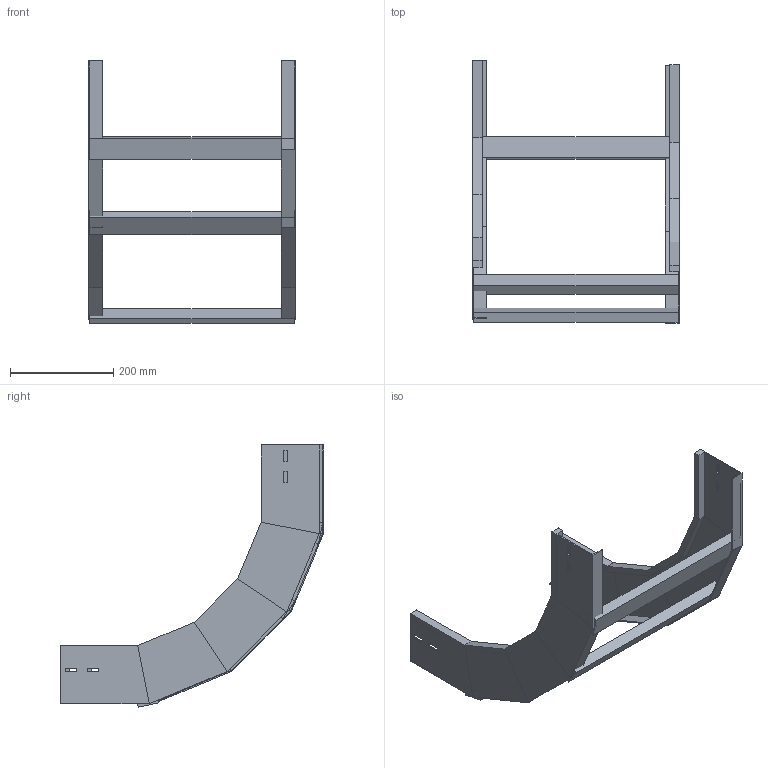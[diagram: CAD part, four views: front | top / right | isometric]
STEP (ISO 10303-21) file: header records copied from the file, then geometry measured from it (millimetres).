
FILE_DESCRIPTION (( 'STEP AP214' ), '1' );
FILE_NAME ('A2X30B3J400XX.step', '2025-04-02T09:13:19', ( '' ), ( '' ), 'SwSTEP 2.0', 'SolidWorks 2023', '' );
FILE_SCHEMA (( 'AUTOMOTIVE_DESIGN' ));
Length unit declared in the file: millimetre
Products named in the file (3): A2X30B3J400XX; LONGH.SALITA_90°_H112.5_R300; TRAVERSINO_400
Assembly tree (5 placements, depth 2):
  A2X30B3J400XX
    LONGH.SALITA_90°_H112.5_R300  x2
    TRAVERSINO_400  x3
Bounding box: 400 x 509.89 x 507.89 mm (x, y, z)
Volume: 1633909.2 mm3; surface area: 616122.1 mm2
Topology: 5 solids, 5 shells, 134 faces, 308 edges, 184 vertices
Faces by surface type: plane 134
Entity records: 1864 total; most frequent: CARTESIAN_POINT 308, ORIENTED_EDGE 296, DIRECTION 292, LINE 148, EDGE_CURVE 148, VECTOR 148, VERTEX_POINT 88, AXIS2_PLACEMENT_3D 72
